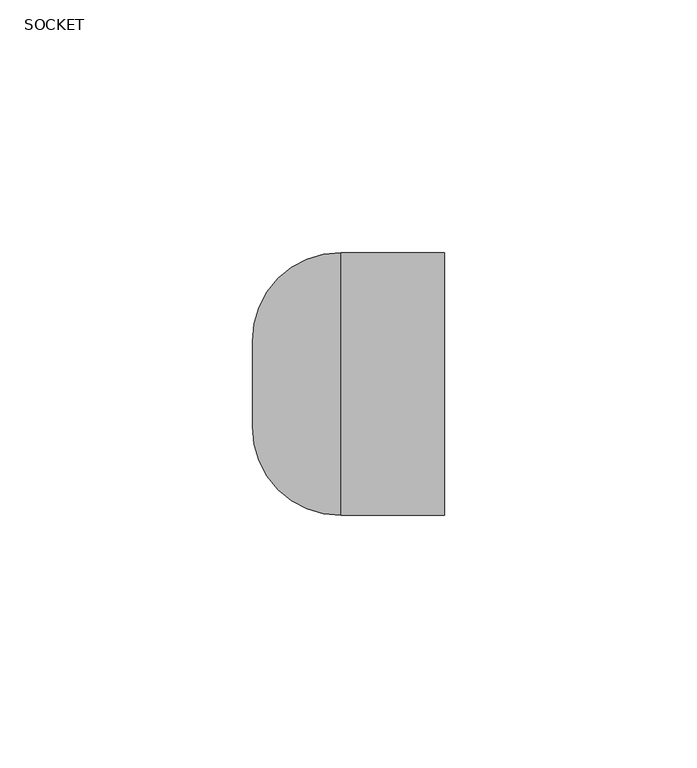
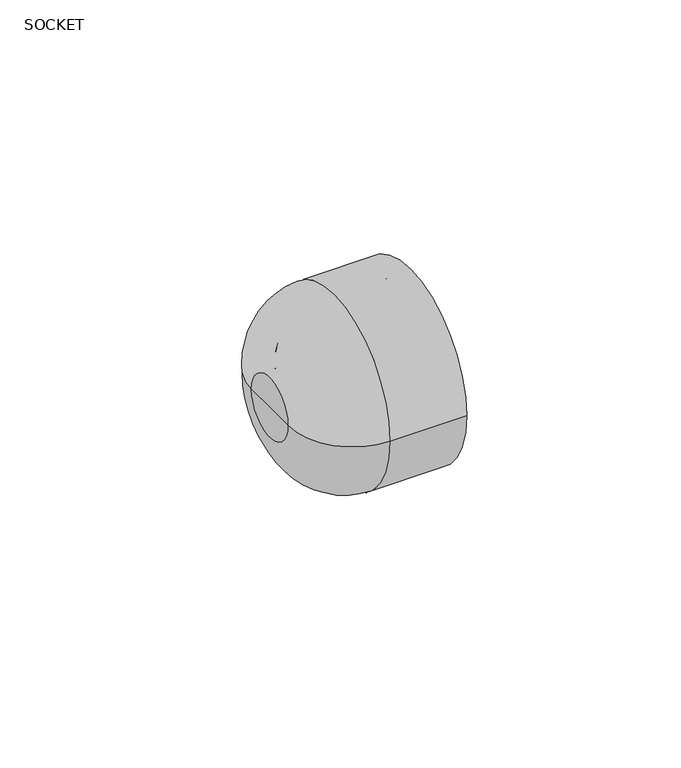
"""IFC4 building model written with IfcOpenShell, lengths in millimetres: pipe fitting geometry, Aquatherm - End Cap Socket : SOCKET."""

import ifcopenshell
import ifcopenshell.guid

model = None  # the IFC model being written
_history = None  # IfcOwnerHistory: only IFC2X3 demands one
_inside = {}  # id of a spatial element -> (the spatial element, [elements in it])
_under = {}  # id of a project, library or spatial element -> (it, [spatial elements below it])
_declared = {}  # id of a project -> (the project, [libraries it declares])
_typed = {}  # id of a type object -> (the type object, [elements of that type])
_made_of = {}  # id of a material, layer set ... -> (it, [elements and type objects made of it])


def new_model(schema):
    """Start an empty IFC model of exactly this schema.

    Asked for "IFC4X3", IfcOpenShell would pick the latest addendum, in which some entities
    have other attributes; the version numbers below select the first issue.
    IFC2X3 requires an IfcOwnerHistory on every rooted entity: one is made here for all.
    """
    global model, _history
    if schema == "IFC4X3":
        model = ifcopenshell.file(schema_version=(4, 3, 0, 0))
    else:
        model = ifcopenshell.file(schema=schema)
    _inside.clear()
    _under.clear()
    _declared.clear()
    _typed.clear()
    _made_of.clear()
    _history = None
    if model.schema == "IFC2X3":
        org = make("IfcOrganization", Name="unknown")
        user = make(
            "IfcPersonAndOrganization",
            ThePerson=make("IfcPerson", FamilyName="unknown"),
            TheOrganization=org,
        )
        app = make(
            "IfcApplication",
            ApplicationDeveloper=org,
            Version="unknown",
            ApplicationFullName="unknown",
            ApplicationIdentifier="unknown",
        )
        _history = make(
            "IfcOwnerHistory",
            OwningUser=user,
            OwningApplication=app,
            ChangeAction="ADDED",
            CreationDate=0,
        )
    return model


def make(cls, **values):
    """One entity of the class cls with the attributes given. An attribute that is None is left unset."""
    return model.create_entity(
        cls, **{name: value for name, value in values.items() if value is not None}
    )


def rooted(cls, **values):
    """An entity with a GlobalId (a new one), such as an element, a storey or a relation."""
    return make(cls, GlobalId=ifcopenshell.guid.new(), OwnerHistory=_history, **values)


def si_unit(unit_type, name, prefix=None):
    """IfcSIUnit, for example si_unit("LENGTHUNIT", "METRE", prefix="MILLI")."""
    return make("IfcSIUnit", UnitType=unit_type, Prefix=prefix, Name=name)


def assignment(units):
    """IfcUnitAssignment: the units of a project."""
    return None if units is None else make("IfcUnitAssignment", Units=units)


def point(xyz):
    """IfcCartesianPoint."""
    return None if xyz is None else make("IfcCartesianPoint", Coordinates=xyz)


def direction(xyz):
    """IfcDirection."""
    return None if xyz is None else make("IfcDirection", DirectionRatios=xyz)


def frame(location, z_axis=None, x_axis=None):
    """IfcAxis2Placement3D, a coordinate frame: its origin and axes. An axis left out is left unset."""
    return make(
        "IfcAxis2Placement3D",
        Location=point(location),
        Axis=direction(z_axis),
        RefDirection=direction(x_axis),
    )


def origin():
    """The frame at (0, 0, 0) with its axes left unset."""
    return frame((0.0, 0.0, 0.0))


def place(relative_to, where):
    """IfcLocalPlacement: puts the frame where relative to a parent placement (None: the world)."""
    return make(
        "IfcLocalPlacement", PlacementRelTo=relative_to, RelativePlacement=where
    )


def context(
    kind, dimensions, precision=None, world=None, true_north=None, identifier=None
):
    """IfcGeometricRepresentationContext, for example the 3D "Model" context."""
    return make(
        "IfcGeometricRepresentationContext",
        ContextIdentifier=identifier,
        ContextType=kind,
        CoordinateSpaceDimension=dimensions,
        Precision=precision,
        WorldCoordinateSystem=world,
        TrueNorth=true_north,
    )


def project(units=None, contexts=None):
    """IfcProject with its units and contexts."""
    return rooted(
        "IfcProject",
        Name="project",
        RepresentationContexts=contexts,
        UnitsInContext=assignment(units),
    )


def spatial(cls, under=None, at=None, **own):
    """A site, building, storey or space (cls), placed at a placement, below another one or the project."""
    s = rooted(cls, ObjectPlacement=at, **own)
    if under is not None:
        _under.setdefault(under.id(), (under, []))[1].append(s)
    return s


def polyline(points):
    """IfcPolyline through the points."""
    return make("IfcPolyline", Points=[point(p) for p in points])


def circle_curve(where, radius):
    """IfcCircle in the frame where."""
    return make("IfcCircle", Position=where, Radius=radius)


def ellipse_curve(where, semi_axis1, semi_axis2):
    """IfcEllipse in the frame where."""
    return make(
        "IfcEllipse", Position=where, SemiAxis1=semi_axis1, SemiAxis2=semi_axis2
    )


def trimmed(basis, trim1, trim2, sense, master):
    """IfcTrimmedCurve: the piece of a basis curve between two trims."""
    return make(
        "IfcTrimmedCurve",
        BasisCurve=basis,
        Trim1=trim1,
        Trim2=trim2,
        SenseAgreement=sense,
        MasterRepresentation=master,
    )


def shape(context_of_items, identifier, shape_type, items):
    """IfcShapeRepresentation: the items that make up one representation, for example the "Body"."""
    return make(
        "IfcShapeRepresentation",
        ContextOfItems=context_of_items,
        RepresentationIdentifier=identifier,
        RepresentationType=shape_type,
        Items=items,
    )


def source(mapping_origin, context_of_items, identifier, shape_type, items):
    """IfcRepresentationMap: a shape defined once, which mapped items show again and again."""
    return make(
        "IfcRepresentationMap",
        MappingOrigin=mapping_origin,
        MappedRepresentation=shape(context_of_items, identifier, shape_type, items),
    )


def transform(
    local_origin,
    x_axis=None,
    y_axis=None,
    z_axis=None,
    scale=None,
    scale2=None,
    scale3=None,
    uniform=True,
):
    """IfcCartesianTransformationOperator3D, or its non-uniform kind. x_axis, y_axis, z_axis: its Axis1, 2, 3."""
    if uniform:
        return make(
            "IfcCartesianTransformationOperator3D",
            Axis1=direction(x_axis),
            Axis2=direction(y_axis),
            LocalOrigin=point(local_origin),
            Scale=scale,
            Axis3=direction(z_axis),
        )
    return make(
        "IfcCartesianTransformationOperator3DnonUniform",
        Axis1=direction(x_axis),
        Axis2=direction(y_axis),
        LocalOrigin=point(local_origin),
        Scale=scale,
        Axis3=direction(z_axis),
        Scale2=scale2,
        Scale3=scale3,
    )


def mapped(mapping_source, mapping_target):
    """IfcMappedItem: shows the shape of a source again, moved by a transform."""
    return make(
        "IfcMappedItem", MappingSource=mapping_source, MappingTarget=mapping_target
    )


def made_of(thing, what):
    """Note that an element or type object is made of a material, layer set ...; save() writes the relation."""
    if what is not None:
        _made_of.setdefault(what.id(), (what, []))[1].append(thing)
    return thing


def element(
    cls,
    number,
    at=None,
    inside=None,
    cuts=None,
    type_object=None,
    material=None,
    context=None,
    identifier="Body",
    shape_type=None,
    held_by="IfcProductDefinitionShape",
    body=None,
    shapes=None,
    **own,
):
    """One element of the class cls, such as IfcWall. Its Tag is "e" and its number.

    at: its placement. inside: the storey or other place that contains it. cuts: it is an
    opening in that element (IfcRelVoidsElement). A single representation is given by context,
    identifier, shape_type and body (its items); several are given by shapes. held_by: the class
    of the entity that holds the representations. save() writes the other relations.
    """
    e = rooted(cls, Tag="e%d" % number, ObjectPlacement=at, **own)
    if body is not None:
        shapes = [shape(context, identifier, shape_type, body)]
    if shapes is not None:
        e.Representation = make(held_by, Representations=shapes)
    if inside is not None:
        _inside.setdefault(inside.id(), (inside, []))[1].append(e)
    if cuts is not None:
        rooted(
            "IfcRelVoidsElement", RelatingBuildingElement=cuts, RelatedOpeningElement=e
        )
    if type_object is not None:
        _typed.setdefault(type_object.id(), (type_object, []))[1].append(e)
    return made_of(e, material)


def aggregate(whole, parts):
    """IfcRelAggregates: a whole, such as a stair, and the parts it consists of."""
    return rooted("IfcRelAggregates", RelatingObject=whole, RelatedObjects=parts)


def save(model, path):
    """Write the relations noted so far, then the file.

    IfcRelAggregates (storeys below a building ...), IfcRelContainedInSpatialStructure (elements
    in a storey), IfcRelDefinesByType, IfcRelAssociatesMaterial and IfcRelDeclares: one each for
    every whole, place, type object, material and project.
    """
    for whole, parts in _under.values():
        aggregate(whole, parts)
    for where, things in _inside.values():
        rooted(
            "IfcRelContainedInSpatialStructure",
            RelatedElements=things,
            RelatingStructure=where,
        )
    for kind, things in _typed.values():
        rooted("IfcRelDefinesByType", RelatedObjects=things, RelatingType=kind)
    for what, things in _made_of.values():
        rooted("IfcRelAssociatesMaterial", RelatedObjects=things, RelatingMaterial=what)
    for by, libraries in _declared.values():
        rooted("IfcRelDeclares", RelatingContext=by, RelatedDefinitions=libraries)
    model.write(path)


def plane_surface(at):
    """IfcPlane: the flat surface through the origin of the frame at, square to its z axis."""
    return make("IfcPlane", Position=at)


def cylinder_surface(at, radius):
    """IfcCylindricalSurface: all points at the distance radius from the z axis of the frame at."""
    return make("IfcCylindricalSurface", Position=at, Radius=radius)


def revolved_surface(curve, axis_point, axis_direction):
    """IfcSurfaceOfRevolution: the curve turned about the line through axis_point along axis_direction."""
    return make(
        "IfcSurfaceOfRevolution",
        SweptCurve=make("IfcArbitraryOpenProfileDef", ProfileType="CURVE", Curve=curve),
        AxisPosition=make("IfcAxis1Placement", Location=point(axis_point), Axis=direction(axis_direction)),
    )


def advanced_brep(points, edges, surfaces, faces):
    """IfcAdvancedBrep: a solid bounded by faces that lie on surfaces and meet in shared edges.

    An edge is (start, end): straight between two places in points (the first is 0);
    or (start, end, curve); or (start, end, curve, False) where it runs against its curve.
    A face is (place in surfaces, loops), or (place, loops, False) where it looks against
    its surface's normal. A loop lists edges by number (the first is 1), with a minus sign
    where the edge is run from its end to its start. The first loop is the outer one.
    """
    corners = [point(p) for p in points]
    vertices = [make("IfcVertexPoint", VertexGeometry=c) for c in corners]
    made = []
    for start, end, *more in edges:
        made.append(
            make(
                "IfcEdgeCurve",
                EdgeStart=vertices[start],
                EdgeEnd=vertices[end],
                EdgeGeometry=more[0] if more else make("IfcPolyline", Points=[corners[start], corners[end]]),
                SameSense=more[1] if len(more) > 1 else True,
            )
        )
    hull = []
    for where, loops, *sense in faces:
        bounds = []
        for j, loop in enumerate(loops):
            ring = [make("IfcOrientedEdge", EdgeElement=made[abs(k) - 1], Orientation=k > 0) for k in loop]
            bounds.append(
                make(
                    "IfcFaceOuterBound" if j == 0 else "IfcFaceBound",
                    Bound=make("IfcEdgeLoop", EdgeList=ring),
                    Orientation=True,
                )
            )
        hull.append(make("IfcAdvancedFace", Bounds=bounds, FaceSurface=surfaces[where], SameSense=sense[0] if sense else True))
    return make("IfcAdvancedBrep", Outer=make("IfcClosedShell", CfsFaces=hull))


def socket_248b3bdb(model_context):
    return source(origin(), model_context, "Body", "AdvancedBrep", [
        advanced_brep(
        [(-38.1, 0.0, 0.0), (-38.1, 8.509, 0.0), (-38.1, -8.509, 0.0), (-26.370534, -19.939, 0.0), (-26.370534, 19.939, 0.0), (-26.370534, 16.058134, 0.0), (-26.370534, -16.058134, 0.0), (0.0, -19.939, 0.0), (0.0, 19.939, 0.0), (0.0, -26.035, 0.0), (0.0, 26.035, 0.0), (-20.574, -26.035, 0.0), (-20.574, 26.035, 0.0), (-28.123134, -14.305534, 0.0), (-28.123134, 14.305534, 0.0), (-28.123134, 0.0, 0.0)],
        [
            (0, 1),
            (1, 2, circle_curve(frame((-38.1, 0.0, 0.0), z_axis=(-1.0, 0.0, 0.0), x_axis=(0.0, 1.0, 0.0)), 8.509)),
            (2, 0),
            (2, 1, circle_curve(frame((-38.1, 0.0, 0.0), z_axis=(-1.0, 0.0, 0.0), x_axis=(0.0, 1.0, 0.0)), 8.509)),
            (3, 4, circle_curve(frame((-26.370534, 0.0, 0.0), z_axis=(1.0, 0.0, 0.0), x_axis=(0.0, 1.0, 0.0)), 19.939)),
            (4, 5),
            (5, 6, circle_curve(frame((-26.370534, 0.0, 0.0), z_axis=(-1.0, 0.0, 0.0), x_axis=(0.0, 1.0, 0.0)), 16.058134)),
            (6, 3),
            (4, 3, circle_curve(frame((-26.370534, 0.0, 0.0), z_axis=(1.0, 0.0, 0.0), x_axis=(0.0, 1.0, 0.0)), 19.939)),
            (6, 5, circle_curve(frame((-26.370534, 0.0, 0.0), z_axis=(-1.0, 0.0, 0.0), x_axis=(0.0, 1.0, 0.0)), 16.058134)),
            (7, 8, circle_curve(frame((0.0, 0.0, 0.0), z_axis=(1.0, 0.0, 0.0), x_axis=(0.0, 1.0, 0.0)), 19.939)),
            (8, 4),
            (3, 7),
            (8, 7, circle_curve(frame((0.0, 0.0, 0.0), z_axis=(1.0, 0.0, 0.0), x_axis=(0.0, 1.0, 0.0)), 19.939)),
            (9, 10, circle_curve(frame((0.0, 0.0, 0.0), z_axis=(1.0, 0.0, 0.0), x_axis=(0.0, 1.0, 0.0)), 26.035)),
            (10, 8),
            (7, 9),
            (10, 9, circle_curve(frame((0.0, 0.0, 0.0), z_axis=(1.0, 0.0, 0.0), x_axis=(0.0, 1.0, 0.0)), 26.035)),
            (11, 12, circle_curve(frame((-20.574, 0.0, 0.0), z_axis=(1.0, 0.0, 0.0), x_axis=(0.0, 1.0, 0.0)), 26.035)),
            (12, 10),
            (9, 11),
            (12, 11, circle_curve(frame((-20.574, 0.0, 0.0), z_axis=(1.0, 0.0, 0.0), x_axis=(0.0, 1.0, 0.0)), 26.035)),
            (1, 12, circle_curve(frame((-20.574, 8.509, 0.0), z_axis=(0.0, 0.0, -1.0), x_axis=(1.0, 0.0, 0.0)), 17.526)),
            (11, 2, circle_curve(frame((-20.574, -8.509, 0.0), z_axis=(0.0, 0.0, -1.0), x_axis=(1.0, 0.0, 0.0)), 17.526)),
            (13, 14, circle_curve(frame((-28.123134, 0.0, 0.0), z_axis=(1.0, 0.0, 0.0), x_axis=(0.0, 1.0, 0.0)), 14.305534)),
            (14, 15),
            (15, 13),
            (14, 13, circle_curve(frame((-28.123134, 0.0, 0.0), z_axis=(1.0, 0.0, 0.0), x_axis=(0.0, 1.0, 0.0)), 14.305534)),
            (5, 14, circle_curve(frame((-26.370534, 14.305534, 0.0), z_axis=(0.0, 0.0, 1.0), x_axis=(1.0, 0.0, 0.0)), 1.7526)),
            (13, 6, circle_curve(frame((-26.370534, -14.305534, 0.0), z_axis=(0.0, 0.0, 1.0), x_axis=(1.0, 0.0, 0.0)), 1.7526)),
        ],
        [
            plane_surface(frame((-38.1, 0.0, 0.0), z_axis=(-1.0, 0.0, 0.0), x_axis=(0.0, 1.0, 0.0))),
            plane_surface(frame((-26.370534, 0.0, 0.0), z_axis=(1.0, 0.0, 0.0), x_axis=(0.0, 1.0, 0.0))),
            revolved_surface(polyline([(-26.370534, 19.939, 0.0), (0.0, 19.939, 0.0)]), (-28.123134, 0.0, 0.0), (-1.0, 0.0, 0.0)),
            plane_surface(frame((0.0, 0.0, 0.0), z_axis=(1.0, 0.0, 0.0), x_axis=(0.0, 1.0, 0.0))),
            cylinder_surface(frame((-28.123134, 0.0, 0.0), z_axis=(-1.0, 0.0, 0.0), x_axis=(0.0, 1.0, 0.0)), 26.035),
            revolved_surface(trimmed(ellipse_curve(frame((-20.574, 8.509, 0.0), z_axis=(0.0, 0.0, 1.0), x_axis=(1.0, 0.0, 0.0)), 17.526, 17.526), [point((-20.574, 26.035, 0.0))], [point((-38.1, 8.509, 0.0))], True, "CARTESIAN"), (-28.123134, 0.0, 0.0), (-1.0, 0.0, 0.0)),
            plane_surface(frame((-28.123134, 0.0, 0.0), z_axis=(1.0, 0.0, 0.0), x_axis=(0.0, 1.0, 0.0))),
            revolved_surface(trimmed(ellipse_curve(frame((-26.370534, 14.305534, 0.0), z_axis=(0.0, 0.0, -1.0), x_axis=(1.0, 0.0, 0.0)), 1.7526, 1.7526), [point((-28.123134, 14.305534, 0.0))], [point((-26.370534, 16.058134, 0.0))], True, "CARTESIAN"), (-28.123134, 0.0, 0.0), (-1.0, 0.0, 0.0)),
        ],
        [
            (0, [[1, 2, 3]]),
            (0, [[-3, 4, -1]]),
            (1, [[5, 6, 7, 8]]),
            (1, [[9, -8, 10, -6]]),
            (2, [[11, 12, -5, 13]]),
            (2, [[14, -13, -9, -12]]),
            (3, [[15, 16, -11, 17]]),
            (3, [[18, -17, -14, -16]]),
            (4, [[19, 20, -15, 21]]),
            (4, [[22, -21, -18, -20]]),
            (5, [[-2, 23, -19, 24]]),
            (5, [[-4, -24, -22, -23]]),
            (6, [[25, 26, 27]]),
            (6, [[28, -27, -26]]),
            (7, [[-7, 29, -25, 30]]),
            (7, [[-10, -30, -28, -29]]),
        ],
    ),
    ])


if __name__ == "__main__":
    model = new_model("IFC4")
    model_context = context("Model", 3, world=origin())
    ifc_project = project(units=[si_unit("LENGTHUNIT", "METRE", prefix="MILLI")], contexts=[model_context])
    site = spatial("IfcSite", under=ifc_project)
    building = spatial("IfcBuilding", under=site)
    placement = place(None, origin())
    ifc_socket_shape = socket_248b3bdb(model_context)
    element("IfcPipeFitting", 1, ObjectType="Aquatherm - End Cap Socket : SOCKET", at=placement, inside=building, context=model_context, shape_type="MappedRepresentation", body=[
        mapped(ifc_socket_shape, transform((0.0, 0.0, 0.0), x_axis=(1.0, 0.0, 0.0), y_axis=(0.0, 1.0, 0.0), z_axis=(0.0, 0.0, 1.0))),
    ])
    save(model, "model.ifc")
